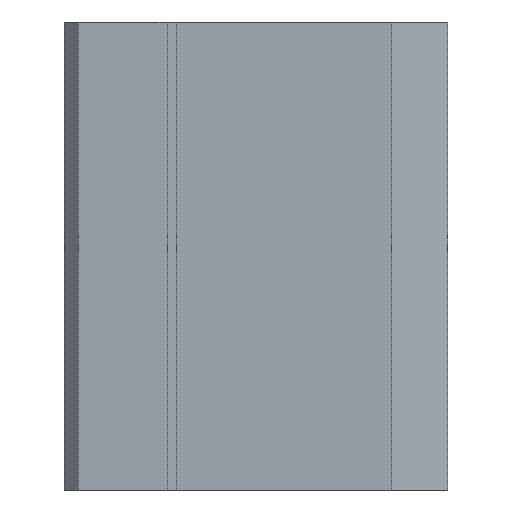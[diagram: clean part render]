
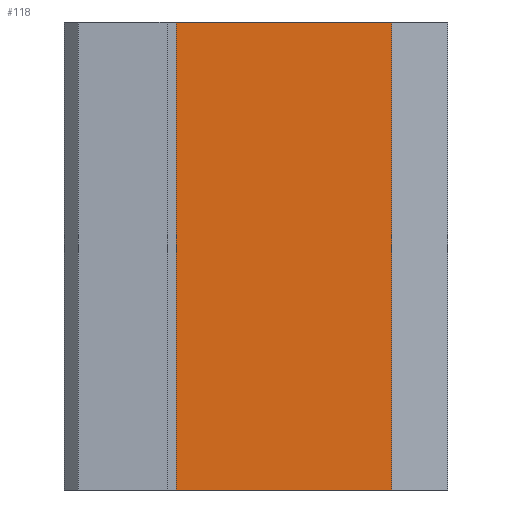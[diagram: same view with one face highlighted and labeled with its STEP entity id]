
A CAD part, left-side view. The second image highlights one B-rep face of the part: STEP entity #118.
In plain terms, the highlighted planar face has unit normal (-1, 0, 0).
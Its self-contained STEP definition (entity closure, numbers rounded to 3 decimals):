
#118=ADVANCED_FACE('',(#248),#249,.F.);
#248=FACE_OUTER_BOUND('',#409,.T.);
#249=PLANE('',#410);
#409=EDGE_LOOP('',(#812,#813,#814,#815));
#410=AXIS2_PLACEMENT_3D('',#816,#817,#818);
#812=ORIENTED_EDGE('',*,*,#1038,.T.);
#813=ORIENTED_EDGE('',*,*,#1086,.F.);
#814=ORIENTED_EDGE('',*,*,#1048,.F.);
#815=ORIENTED_EDGE('',*,*,#1087,.T.);
#816=CARTESIAN_POINT('',(-26.0,9.0,25.0));
#817=DIRECTION('',(1.0,0.0,0.0));
#818=DIRECTION('',(0.0,1.0,0.0));
#1038=EDGE_CURVE('',#1256,#1254,#1257,.T.);
#1048=EDGE_CURVE('',#1274,#1276,#1277,.T.);
#1086=EDGE_CURVE('',#1276,#1254,#1334,.T.);
#1087=EDGE_CURVE('',#1274,#1256,#1335,.T.);
#1254=VERTEX_POINT('',#1548);
#1256=VERTEX_POINT('',#1551);
#1257=LINE('',#1552,#1553);
#1274=VERTEX_POINT('',#1578);
#1276=VERTEX_POINT('',#1581);
#1277=LINE('',#1582,#1583);
#1334=LINE('',#1673,#1674);
#1335=LINE('',#1675,#1676);
#1548=CARTESIAN_POINT('',(-26.0,-14.0,-25.0));
#1551=CARTESIAN_POINT('',(-26.0,9.0,-25.0));
#1552=CARTESIAN_POINT('',(-26.0,9.0,-25.0));
#1553=VECTOR('',#1884,1.0);
#1578=CARTESIAN_POINT('',(-26.0,9.0,25.0));
#1581=CARTESIAN_POINT('',(-26.0,-14.0,25.0));
#1582=CARTESIAN_POINT('',(-26.0,9.0,25.0));
#1583=VECTOR('',#1894,1.0);
#1673=CARTESIAN_POINT('',(-26.0,-14.0,25.0));
#1674=VECTOR('',#1940,1.0);
#1675=CARTESIAN_POINT('',(-26.0,9.0,25.0));
#1676=VECTOR('',#1941,1.0);
#1884=DIRECTION('',(0.0,-1.0,0.0));
#1894=DIRECTION('',(0.0,-1.0,0.0));
#1940=DIRECTION('',(0.0,0.0,-1.0));
#1941=DIRECTION('',(0.0,0.0,-1.0));
